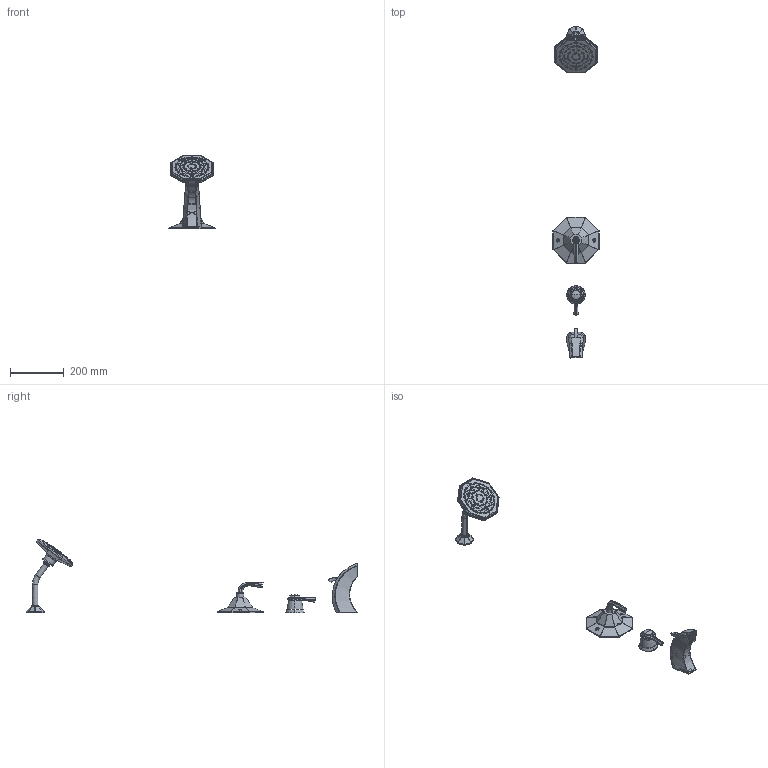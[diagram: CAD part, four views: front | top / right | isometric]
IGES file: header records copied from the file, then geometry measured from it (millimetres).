
Start section:  PTC IGES file: sku_ts344.igs
Global section: file name: sku_ts344.igs; native system: Pro/ENGINEER by Parametric Technology Corporation; preprocessor: 2006460; author: 9dutterb; organization: Unknown; date: 20071106.112706; units: inch
Bounding box: 171.17 x 1233.82 x 272.22 mm (x, y, z)
Surface area: 298062.4 mm2 (no closed solid volume)
Topology: 0 solids, 0 shells, 687 faces, 3967 edges, 3965 vertices
Faces by surface type: bspline 373, revolution 308, extrusion 6
